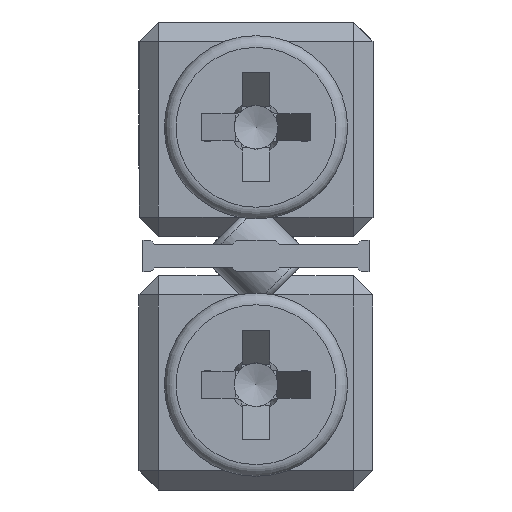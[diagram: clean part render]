
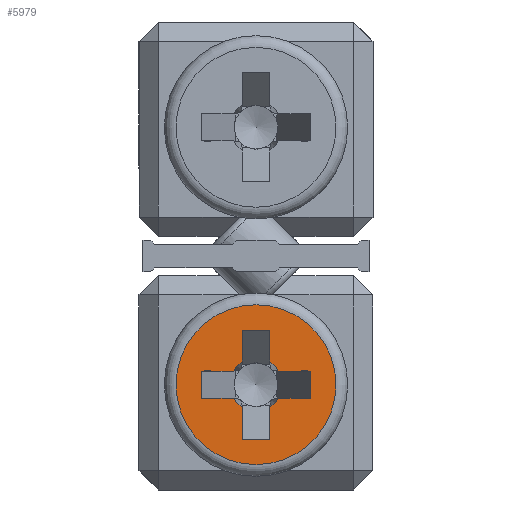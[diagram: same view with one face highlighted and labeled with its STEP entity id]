
A CAD part, left-side view. The second image highlights one B-rep face of the part: STEP entity #5979.
In plain terms, the highlighted planar face has unit normal (-1, 0, 0).
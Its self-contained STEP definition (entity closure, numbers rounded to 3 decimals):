
#700 = CARTESIAN_POINT ( 'NONE',  ( -61.5, 1.4, 3.05 ) ) ;
#768 = VERTEX_POINT ( 'NONE', #19873 ) ;
#827 = ORIENTED_EDGE ( 'NONE', *, *, #21673, .F. ) ;
#979 = VECTOR ( 'NONE', #2406, 1000. ) ;
#1122 = ORIENTED_EDGE ( 'NONE', *, *, #9574, .T. ) ;
#1189 = DIRECTION ( 'NONE',  ( 0., 0., -1. ) ) ;
#1377 = VECTOR ( 'NONE', #17423, 1000. ) ;
#2119 = AXIS2_PLACEMENT_3D ( 'NONE', #5783, #2264, #4032 ) ;
#2165 = LINE ( 'NONE', #6042, #18719 ) ;
#2264 = DIRECTION ( 'NONE',  ( -1., 0., 0. ) ) ;
#2350 = DIRECTION ( 'NONE',  ( 0., 1., 0. ) ) ;
#2406 = DIRECTION ( 'NONE',  ( 0., 0., 1. ) ) ;
#2429 = VECTOR ( 'NONE', #2350, 1000. ) ;
#2725 = DIRECTION ( 'NONE',  ( 0., 1., 0. ) ) ;
#2809 = ORIENTED_EDGE ( 'NONE', *, *, #10223, .T. ) ;
#2947 = ORIENTED_EDGE ( 'NONE', *, *, #12588, .F. ) ;
#2951 = CARTESIAN_POINT ( 'NONE',  ( -61.5, -1.4, 2.35 ) ) ;
#3176 = CARTESIAN_POINT ( 'NONE',  ( -61.5, 0., 2.7 ) ) ;
#3749 = VERTEX_POINT ( 'NONE', #6280 ) ;
#3751 = CARTESIAN_POINT ( 'NONE',  ( -61.5, -0.35, 4.1 ) ) ;
#3935 = DIRECTION ( 'NONE',  ( -1., 0., 0. ) ) ;
#3951 = CARTESIAN_POINT ( 'NONE',  ( -61.5, 0.35, 1.3 ) ) ;
#4032 = DIRECTION ( 'NONE',  ( 0., 1., 0. ) ) ;
#4075 = LINE ( 'NONE', #3951, #979 ) ;
#4226 = EDGE_CURVE ( 'NONE', #11116, #5986, #15673, .T. ) ;
#4258 = VERTEX_POINT ( 'NONE', #22827 ) ;
#4440 = FACE_OUTER_BOUND ( 'NONE', #16238, .T. ) ;
#4451 = CIRCLE ( 'NONE', #21739, 0.678 ) ;
#4573 = DIRECTION ( 'NONE',  ( 0., 1., 0. ) ) ;
#5022 = ORIENTED_EDGE ( 'NONE', *, *, #18309, .F. ) ;
#5161 = CARTESIAN_POINT ( 'NONE',  ( -61.5, -0.581, 2.35 ) ) ;
#5222 = VECTOR ( 'NONE', #20558, 1000. ) ;
#5479 = EDGE_CURVE ( 'NONE', #3749, #5986, #20449, .T. ) ;
#5539 = ORIENTED_EDGE ( 'NONE', *, *, #22619, .T. ) ;
#5587 = CARTESIAN_POINT ( 'NONE',  ( -61.5, -0.35, 1.3 ) ) ;
#5783 = CARTESIAN_POINT ( 'NONE',  ( -61.5, 0., 2.7 ) ) ;
#5790 = CARTESIAN_POINT ( 'NONE',  ( -61.5, 0.35, 1.3 ) ) ;
#5979 = ADVANCED_FACE ( 'NONE', ( #4440, #11630 ), #17142, .F. ) ;
#5986 = VERTEX_POINT ( 'NONE', #17259 ) ;
#6042 = CARTESIAN_POINT ( 'NONE',  ( -61.5, 0.35, 1.3 ) ) ;
#6280 = CARTESIAN_POINT ( 'NONE',  ( -61.5, 0.581, 2.35 ) ) ;
#6492 = CARTESIAN_POINT ( 'NONE',  ( -61.5, 0., 2.7 ) ) ;
#6673 = DIRECTION ( 'NONE',  ( 0., -1., 0. ) ) ;
#7226 = CARTESIAN_POINT ( 'NONE',  ( -61.5, 0.581, 3.05 ) ) ;
#7561 = LINE ( 'NONE', #5790, #12164 ) ;
#7712 = EDGE_CURVE ( 'NONE', #13094, #15160, #2165, .T. ) ;
#7734 = AXIS2_PLACEMENT_3D ( 'NONE', #18775, #8311, #6673 ) ;
#7881 = EDGE_CURVE ( 'NONE', #13094, #11108, #4451, .T. ) ;
#8311 = DIRECTION ( 'NONE',  ( 1., 0., 0. ) ) ;
#8344 = EDGE_CURVE ( 'NONE', #11116, #11108, #14082, .T. ) ;
#8445 = VECTOR ( 'NONE', #4573, 1000. ) ;
#8526 = CARTESIAN_POINT ( 'NONE',  ( -61.5, -2.05, 2.7 ) ) ;
#8575 = CARTESIAN_POINT ( 'NONE',  ( -61.5, 0.35, 4.1 ) ) ;
#8706 = DIRECTION ( 'NONE',  ( -1., 0., 0. ) ) ;
#8772 = DIRECTION ( 'NONE',  ( 0., -1., 0. ) ) ;
#8801 = ORIENTED_EDGE ( 'NONE', *, *, #18426, .T. ) ;
#8891 = ORIENTED_EDGE ( 'NONE', *, *, #12524, .F. ) ;
#8986 = VECTOR ( 'NONE', #10595, 1000. ) ;
#9221 = DIRECTION ( 'NONE',  ( 0., 0., 1. ) ) ;
#9445 = DIRECTION ( 'NONE',  ( 0., -1., 0. ) ) ;
#9569 = ORIENTED_EDGE ( 'NONE', *, *, #8344, .T. ) ;
#9574 = EDGE_CURVE ( 'NONE', #14624, #13154, #4075, .T. ) ;
#9664 = CARTESIAN_POINT ( 'NONE',  ( -61.5, -0.35, 4.1 ) ) ;
#9872 = LINE ( 'NONE', #17390, #8445 ) ;
#9876 = ORIENTED_EDGE ( 'NONE', *, *, #22904, .T. ) ;
#10029 = CARTESIAN_POINT ( 'NONE',  ( -61.5, -0.35, 2.119 ) ) ;
#10081 = CIRCLE ( 'NONE', #13833, 0.678 ) ;
#10223 = EDGE_CURVE ( 'NONE', #21785, #11039, #12031, .T. ) ;
#10361 = DIRECTION ( 'NONE',  ( -1., 0., 0. ) ) ;
#10415 = ORIENTED_EDGE ( 'NONE', *, *, #7881, .F. ) ;
#10595 = DIRECTION ( 'NONE',  ( 0., 0., 1. ) ) ;
#10780 = CIRCLE ( 'NONE', #2119, 0.678 ) ;
#10931 = DIRECTION ( 'NONE',  ( 0., 0., -1. ) ) ;
#11039 = VERTEX_POINT ( 'NONE', #5587 ) ;
#11108 = VERTEX_POINT ( 'NONE', #7226 ) ;
#11116 = VERTEX_POINT ( 'NONE', #19805 ) ;
#11274 = CARTESIAN_POINT ( 'NONE',  ( -61.5, 0.35, 3.281 ) ) ;
#11630 = FACE_BOUND ( 'NONE', #15098, .T. ) ;
#12031 = LINE ( 'NONE', #22844, #1377 ) ;
#12058 = VERTEX_POINT ( 'NONE', #8526 ) ;
#12164 = VECTOR ( 'NONE', #9445, 1000. ) ;
#12240 = CARTESIAN_POINT ( 'NONE',  ( -61.5, 0., 2.7 ) ) ;
#12354 = VECTOR ( 'NONE', #1189, 1000. ) ;
#12359 = CIRCLE ( 'NONE', #19860, 0.678 ) ;
#12450 = VERTEX_POINT ( 'NONE', #16955 ) ;
#12524 = EDGE_CURVE ( 'NONE', #4258, #13490, #23168, .T. ) ;
#12588 = EDGE_CURVE ( 'NONE', #12450, #15308, #12359, .T. ) ;
#12756 = EDGE_CURVE ( 'NONE', #12450, #13490, #14946, .T. ) ;
#13079 = CARTESIAN_POINT ( 'NONE',  ( -61.5, -1.4, 2.35 ) ) ;
#13094 = VERTEX_POINT ( 'NONE', #11274 ) ;
#13154 = VERTEX_POINT ( 'NONE', #16908 ) ;
#13346 = VECTOR ( 'NONE', #10931, 1000. ) ;
#13461 = DIRECTION ( 'NONE',  ( -1., 0., 0. ) ) ;
#13490 = VERTEX_POINT ( 'NONE', #15433 ) ;
#13578 = ORIENTED_EDGE ( 'NONE', *, *, #12756, .T. ) ;
#13833 = AXIS2_PLACEMENT_3D ( 'NONE', #14892, #3935, #20170 ) ;
#14014 = CARTESIAN_POINT ( 'NONE',  ( -61.5, 1.4, 3.05 ) ) ;
#14082 = LINE ( 'NONE', #23120, #16136 ) ;
#14430 = ORIENTED_EDGE ( 'NONE', *, *, #15108, .F. ) ;
#14624 = VERTEX_POINT ( 'NONE', #16756 ) ;
#14706 = ORIENTED_EDGE ( 'NONE', *, *, #5479, .T. ) ;
#14892 = CARTESIAN_POINT ( 'NONE',  ( -61.5, 0., 2.7 ) ) ;
#14946 = LINE ( 'NONE', #700, #5222 ) ;
#15098 = EDGE_LOOP ( 'NONE', ( #2947, #13578, #8891, #5539, #14430, #2809, #827, #1122, #17373, #14706, #21947, #9569, #10415, #15696, #5022, #9876 ) ) ;
#15108 = EDGE_CURVE ( 'NONE', #21785, #15143, #10780, .T. ) ;
#15143 = VERTEX_POINT ( 'NONE', #5161 ) ;
#15160 = VERTEX_POINT ( 'NONE', #8575 ) ;
#15302 = VECTOR ( 'NONE', #16844, 1000. ) ;
#15308 = VERTEX_POINT ( 'NONE', #22530 ) ;
#15433 = CARTESIAN_POINT ( 'NONE',  ( -61.5, -1.4, 3.05 ) ) ;
#15673 = LINE ( 'NONE', #14014, #12354 ) ;
#15696 = ORIENTED_EDGE ( 'NONE', *, *, #7712, .T. ) ;
#16136 = VECTOR ( 'NONE', #8772, 1000. ) ;
#16238 = EDGE_LOOP ( 'NONE', ( #8801 ) ) ;
#16756 = CARTESIAN_POINT ( 'NONE',  ( -61.5, 0.35, 1.3 ) ) ;
#16844 = DIRECTION ( 'NONE',  ( 0., 1., 0. ) ) ;
#16908 = CARTESIAN_POINT ( 'NONE',  ( -61.5, 0.35, 2.119 ) ) ;
#16955 = CARTESIAN_POINT ( 'NONE',  ( -61.5, -0.581, 3.05 ) ) ;
#17142 = PLANE ( 'NONE',  #7734 ) ;
#17259 = CARTESIAN_POINT ( 'NONE',  ( -61.5, 1.4, 2.35 ) ) ;
#17373 = ORIENTED_EDGE ( 'NONE', *, *, #19123, .F. ) ;
#17390 = CARTESIAN_POINT ( 'NONE',  ( -61.5, -1.4, 2.35 ) ) ;
#17423 = DIRECTION ( 'NONE',  ( 0., 0., -1. ) ) ;
#17527 = DIRECTION ( 'NONE',  ( 0., 1., 0. ) ) ;
#18309 = EDGE_CURVE ( 'NONE', #768, #15160, #22474, .T. ) ;
#18426 = EDGE_CURVE ( 'NONE', #12058, #12058, #19438, .T. ) ;
#18719 = VECTOR ( 'NONE', #9221, 1000. ) ;
#18775 = CARTESIAN_POINT ( 'NONE',  ( -61.5, 0., 0.35 ) ) ;
#19123 = EDGE_CURVE ( 'NONE', #3749, #13154, #10081, .T. ) ;
#19438 = CIRCLE ( 'NONE', #20929, 2.05 ) ;
#19805 = CARTESIAN_POINT ( 'NONE',  ( -61.5, 1.4, 3.05 ) ) ;
#19854 = LINE ( 'NONE', #3751, #13346 ) ;
#19860 = AXIS2_PLACEMENT_3D ( 'NONE', #3176, #10361, #17527 ) ;
#19873 = CARTESIAN_POINT ( 'NONE',  ( -61.5, -0.35, 4.1 ) ) ;
#20170 = DIRECTION ( 'NONE',  ( 0., 1., 0. ) ) ;
#20449 = LINE ( 'NONE', #13079, #2429 ) ;
#20558 = DIRECTION ( 'NONE',  ( 0., -1., 0. ) ) ;
#20929 = AXIS2_PLACEMENT_3D ( 'NONE', #12240, #8706, #23034 ) ;
#21673 = EDGE_CURVE ( 'NONE', #14624, #11039, #7561, .T. ) ;
#21739 = AXIS2_PLACEMENT_3D ( 'NONE', #6492, #13461, #2725 ) ;
#21785 = VERTEX_POINT ( 'NONE', #10029 ) ;
#21947 = ORIENTED_EDGE ( 'NONE', *, *, #4226, .F. ) ;
#22474 = LINE ( 'NONE', #9664, #15302 ) ;
#22530 = CARTESIAN_POINT ( 'NONE',  ( -61.5, -0.35, 3.281 ) ) ;
#22619 = EDGE_CURVE ( 'NONE', #4258, #15143, #9872, .T. ) ;
#22827 = CARTESIAN_POINT ( 'NONE',  ( -61.5, -1.4, 2.35 ) ) ;
#22844 = CARTESIAN_POINT ( 'NONE',  ( -61.5, -0.35, 4.1 ) ) ;
#22904 = EDGE_CURVE ( 'NONE', #768, #15308, #19854, .T. ) ;
#23034 = DIRECTION ( 'NONE',  ( 0., -1., 0. ) ) ;
#23120 = CARTESIAN_POINT ( 'NONE',  ( -61.5, 1.4, 3.05 ) ) ;
#23168 = LINE ( 'NONE', #2951, #8986 ) ;
